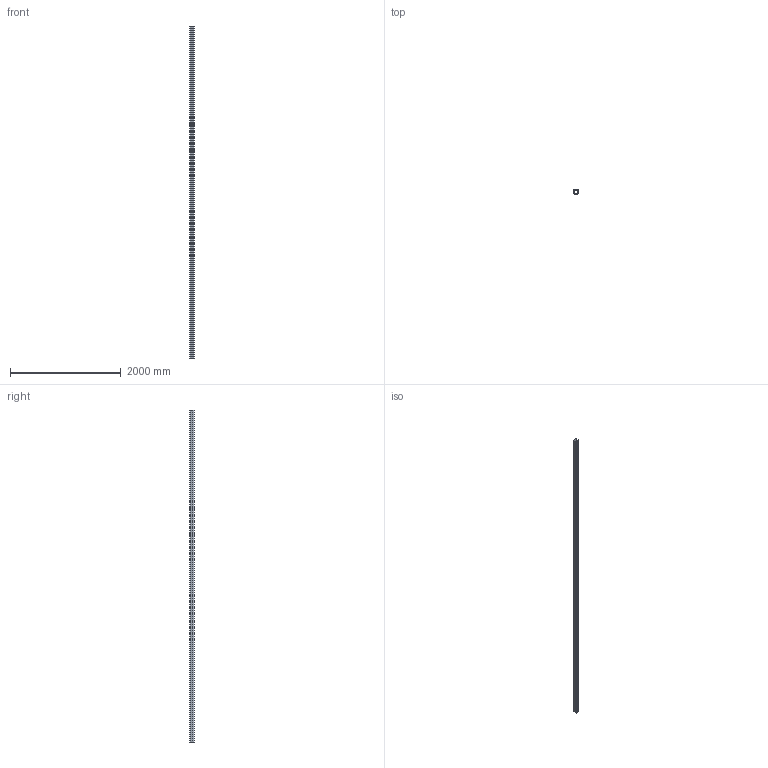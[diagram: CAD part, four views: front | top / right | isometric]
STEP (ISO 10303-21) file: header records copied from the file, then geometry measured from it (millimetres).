
FILE_DESCRIPTION(/* description */ (''),/* implementation_level */ '2;1');
FILE_NAME(/* name */ 'Q:\sge-ma\Produktmanagement-STB\STB\Workspace\TraceParts\Laufrohr\010337036.stp',/* time_stamp */ '2016-06-28T13:17:02+02:00',/* author */ ('avschreier'),/* organization */ (''),/* preprocessor_version */ 'ST-DEVELOPER v16.1',/* originating_system */ 'Autodesk Inventor 2016',/* authorisation */ '');
FILE_SCHEMA (('AUTOMOTIVE_DESIGN { 1 0 10303 214 3 1 1 }'));
Length unit declared in the file: millimetre
Products named in the file (1): 010337036
Bounding box: 80 x 75 x 6000 mm (x, y, z)
Volume: 6756305.5 mm3; surface area: 3068647.7 mm2
Topology: 1 solids, 1 shells, 30 faces, 84 edges, 56 vertices
Faces by surface type: plane 18, cylinder 12
Entity records: 996 total; most frequent: CARTESIAN_POINT 171, DIRECTION 170, ORIENTED_EDGE 168, EDGE_CURVE 84, LINE 60, VECTOR 60, VERTEX_POINT 56, AXIS2_PLACEMENT_3D 55
